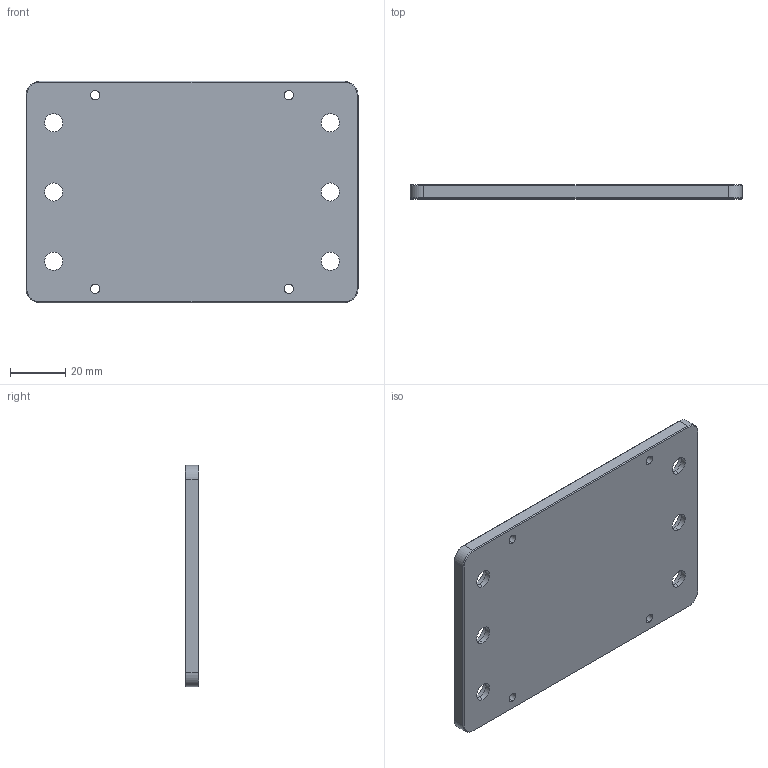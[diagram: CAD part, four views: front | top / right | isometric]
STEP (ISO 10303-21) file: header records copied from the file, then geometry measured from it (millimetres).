
FILE_DESCRIPTION (( 'STEP AP214' ), '1' );
FILE_NAME ('2766弇痄怢陔蛌諉.STEP', '2026-10-20T01:12:18', ( '' ), ( '' ), 'SwSTEP 2.0', 'SolidWorks 2024', '' );
FILE_SCHEMA (( 'AUTOMOTIVE_DESIGN' ));
Length unit declared in the file: millimetre
Products named in the file (1): 2766位移台新转接
Bounding box: 120 x 5 x 80 mm (x, y, z)
Volume: 45565.3 mm3; surface area: 21575.6 mm2
Topology: 1 solids, 1 shells, 64 faces, 152 edges, 96 vertices
Faces by surface type: cylinder 36, plane 20, cone 8
Entity records: 1931 total; most frequent: DIRECTION 362, CARTESIAN_POINT 313, ORIENTED_EDGE 304, EDGE_CURVE 152, AXIS2_PLACEMENT_3D 145, VERTEX_POINT 96, EDGE_LOOP 90, CIRCLE 80
